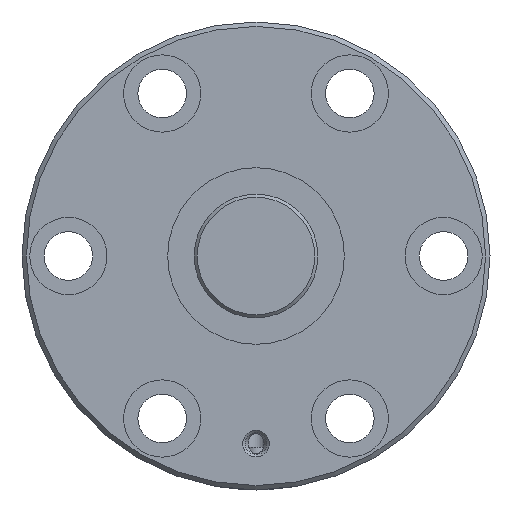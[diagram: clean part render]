
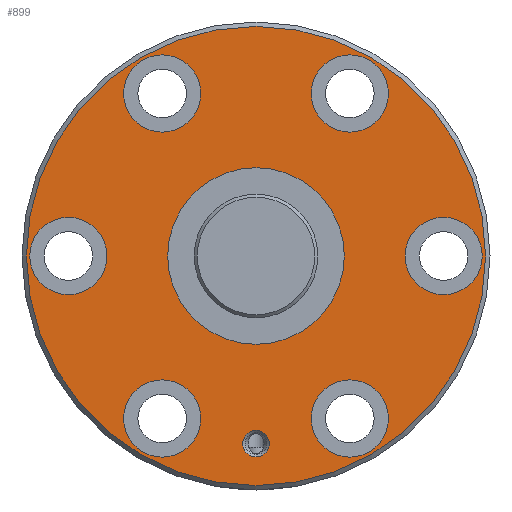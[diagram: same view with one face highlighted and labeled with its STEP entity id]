
A CAD part, left-side view. The second image highlights one B-rep face of the part: STEP entity #899.
In plain terms, the highlighted planar face has unit normal (-1, 0, 0).
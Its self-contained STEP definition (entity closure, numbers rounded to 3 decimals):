
#147=ORIENTED_EDGE('',*,*,#340,.T.);
#148=ORIENTED_EDGE('',*,*,#341,.T.);
#149=ORIENTED_EDGE('',*,*,#342,.T.);
#150=ORIENTED_EDGE('',*,*,#343,.T.);
#151=ORIENTED_EDGE('',*,*,#344,.T.);
#152=ORIENTED_EDGE('',*,*,#345,.T.);
#153=ORIENTED_EDGE('',*,*,#346,.T.);
#154=ORIENTED_EDGE('',*,*,#347,.T.);
#155=ORIENTED_EDGE('',*,*,#339,.F.);
#339=EDGE_CURVE('',#439,#439,#522,.T.);
#340=EDGE_CURVE('',#440,#440,#523,.T.);
#341=EDGE_CURVE('',#441,#441,#524,.F.);
#342=EDGE_CURVE('',#442,#442,#525,.T.);
#343=EDGE_CURVE('',#443,#443,#526,.T.);
#344=EDGE_CURVE('',#444,#444,#527,.T.);
#345=EDGE_CURVE('',#445,#445,#528,.T.);
#346=EDGE_CURVE('',#446,#446,#529,.T.);
#347=EDGE_CURVE('',#447,#447,#530,.T.);
#439=VERTEX_POINT('',#1508);
#440=VERTEX_POINT('',#1511);
#441=VERTEX_POINT('',#1513);
#442=VERTEX_POINT('',#1515);
#443=VERTEX_POINT('',#1517);
#444=VERTEX_POINT('',#1519);
#445=VERTEX_POINT('',#1521);
#446=VERTEX_POINT('',#1523);
#447=VERTEX_POINT('',#1525);
#522=CIRCLE('',#1005,52.);
#523=CIRCLE('',#1007,20.);
#524=CIRCLE('',#1008,8.75);
#525=CIRCLE('',#1009,3.);
#526=CIRCLE('',#1010,8.75);
#527=CIRCLE('',#1011,8.75);
#528=CIRCLE('',#1012,8.75);
#529=CIRCLE('',#1013,8.75);
#530=CIRCLE('',#1014,8.75);
#602=EDGE_LOOP('',(#147));
#603=EDGE_LOOP('',(#148));
#604=EDGE_LOOP('',(#149));
#605=EDGE_LOOP('',(#150));
#606=EDGE_LOOP('',(#151));
#607=EDGE_LOOP('',(#152));
#608=EDGE_LOOP('',(#153));
#609=EDGE_LOOP('',(#154));
#610=EDGE_LOOP('',(#155));
#742=FACE_BOUND('',#602,.T.);
#743=FACE_BOUND('',#603,.T.);
#744=FACE_BOUND('',#604,.T.);
#745=FACE_BOUND('',#605,.T.);
#746=FACE_BOUND('',#606,.T.);
#747=FACE_BOUND('',#607,.T.);
#748=FACE_BOUND('',#608,.T.);
#749=FACE_BOUND('',#609,.T.);
#750=FACE_BOUND('',#610,.T.);
#864=PLANE('',#1006);
#899=ADVANCED_FACE('',(#742,#743,#744,#745,#746,#747,#748,#749,#750),#864,
 .T.);
#1005=AXIS2_PLACEMENT_3D('',#1507,#1171,#1172);
#1006=AXIS2_PLACEMENT_3D('',#1509,#1173,#1174);
#1007=AXIS2_PLACEMENT_3D('',#1510,#1175,#1176);
#1008=AXIS2_PLACEMENT_3D('',#1512,#1177,#1178);
#1009=AXIS2_PLACEMENT_3D('',#1514,#1179,#1180);
#1010=AXIS2_PLACEMENT_3D('',#1516,#1181,#1182);
#1011=AXIS2_PLACEMENT_3D('',#1518,#1183,#1184);
#1012=AXIS2_PLACEMENT_3D('',#1520,#1185,#1186);
#1013=AXIS2_PLACEMENT_3D('',#1522,#1187,#1188);
#1014=AXIS2_PLACEMENT_3D('',#1524,#1189,#1190);
#1171=DIRECTION('',(1.,0.,0.));
#1172=DIRECTION('',(0.,0.,-1.));
#1173=DIRECTION('',(-1.,0.,0.));
#1174=DIRECTION('',(0.,0.,1.));
#1175=DIRECTION('',(1.,0.,0.));
#1176=DIRECTION('',(0.,0.,-1.));
#1177=DIRECTION('',(-1.,0.,0.));
#1178=DIRECTION('',(0.,0.,1.));
#1179=DIRECTION('',(1.,0.,0.));
#1180=DIRECTION('',(0.,0.,-1.));
#1181=DIRECTION('',(1.,0.,0.));
#1182=DIRECTION('',(0.,0.,-1.));
#1183=DIRECTION('',(1.,0.,0.));
#1184=DIRECTION('',(0.,0.,-1.));
#1185=DIRECTION('',(1.,0.,0.));
#1186=DIRECTION('',(0.,0.,-1.));
#1187=DIRECTION('',(1.,0.,0.));
#1188=DIRECTION('',(0.,0.,-1.));
#1189=DIRECTION('',(1.,0.,0.));
#1190=DIRECTION('',(0.,0.,-1.));
#1507=CARTESIAN_POINT('',(0.,0.,0.));
#1508=CARTESIAN_POINT('',(0.,0.,-52.));
#1509=CARTESIAN_POINT('',(0.,52.,0.));
#1510=CARTESIAN_POINT('',(0.,0.,0.));
#1511=CARTESIAN_POINT('',(0.,0.,-20.));
#1512=CARTESIAN_POINT('',(0.,42.5,0.));
#1513=CARTESIAN_POINT('',(0.,42.5,8.75));
#1514=CARTESIAN_POINT('',(0.,0.,-42.5));
#1515=CARTESIAN_POINT('',(0.,0.,-45.5));
#1516=CARTESIAN_POINT('',(0.,-42.5,0.));
#1517=CARTESIAN_POINT('',(0.,-42.5,-8.75));
#1518=CARTESIAN_POINT('',(0.,21.25,36.806));
#1519=CARTESIAN_POINT('',(0.,21.25,28.056));
#1520=CARTESIAN_POINT('',(0.,-21.25,-36.806));
#1521=CARTESIAN_POINT('',(0.,-21.25,-45.556));
#1522=CARTESIAN_POINT('',(0.,-21.25,36.806));
#1523=CARTESIAN_POINT('',(0.,-21.25,28.056));
#1524=CARTESIAN_POINT('',(0.,21.25,-36.806));
#1525=CARTESIAN_POINT('',(0.,21.25,-45.556));
